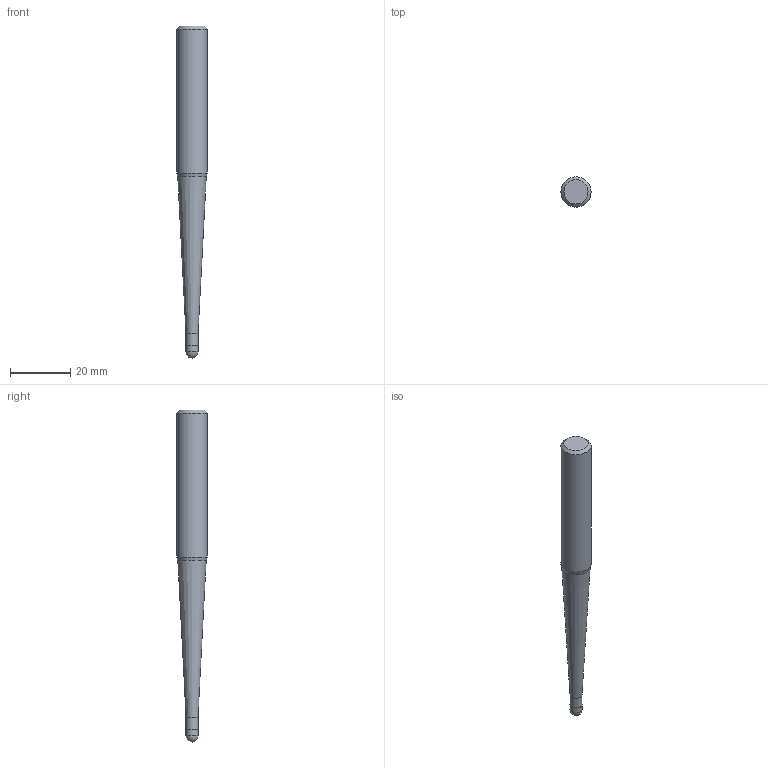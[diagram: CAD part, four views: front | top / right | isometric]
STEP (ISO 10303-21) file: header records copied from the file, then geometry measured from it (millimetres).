
FILE_DESCRIPTION((''),'2;1');
FILE_NAME('C:\Users\nsx150\AppData\Local\Temp\Mastercam 2021\SNAKH10GOD\TEMP.step','2021-10-21T13:33:40',(''),(''),'STEP Write','Mastercam 2021 ... CNC Software, Inc.','');
FILE_SCHEMA(('AUTOMOTIVE_DESIGN'));
Length unit declared in the file: millimetre
Products named in the file (1): None
Bounding box: 10 x 10 x 110 mm (x, y, z)
Volume: 5941.9 mm3; surface area: 2853.2 mm2
Topology: 2 solids, 2 shells, 10 faces, 16 edges, 9 vertices
Faces by surface type: plane 3, cylinder 3, cone 3, sphere 1
Full cylindrical faces by diameter (mm): 3.98 x1, 4 x1, 10 x1
Entity records: 232 total; most frequent: DIRECTION 40, CARTESIAN_POINT 28, AXIS2_PLACEMENT_3D 20, ORIENTED_EDGE 16, EDGE_LOOP 16, STYLED_ITEM 13, ADVANCED_FACE 10, FACE_BOUND 9
